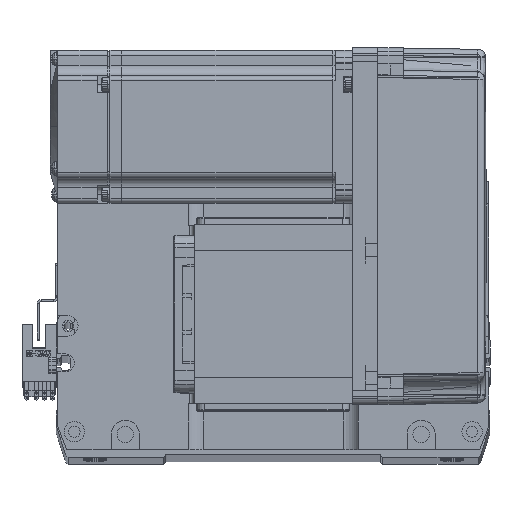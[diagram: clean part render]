
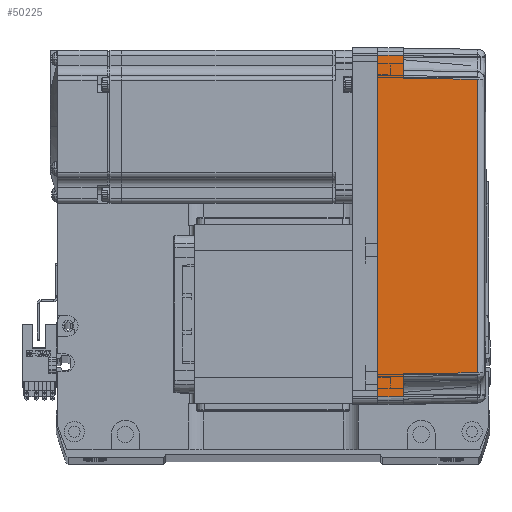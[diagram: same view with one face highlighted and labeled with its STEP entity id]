
A CAD part, top view. The second image highlights one B-rep face of the part: STEP entity #50225.
In plain terms, the highlighted planar face has unit normal (0.018, 0, 1) as drawn and (0, -1, 0.017) by its records, which use the part's own axes.
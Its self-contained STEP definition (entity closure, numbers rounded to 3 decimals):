
#400 = CARTESIAN_POINT ( 'NONE',  ( -66.959, -35.958, 2.39 ) ) ;
#632 = DIRECTION ( 'NONE',  ( 0.017, 0.017, 1. ) ) ;
#633 = VERTEX_POINT ( 'NONE', #6731 ) ;
#2541 = CARTESIAN_POINT ( 'NONE',  ( 19.165, -35.316, 39.181 ) ) ;
#2637 = FACE_OUTER_BOUND ( 'NONE', #43428, .T. ) ;
#4455 = LINE ( 'NONE', #37408, #62896 ) ;
#5249 = VERTEX_POINT ( 'NONE', #36865 ) ;
#5733 = VERTEX_POINT ( 'NONE', #47545 ) ;
#6731 = CARTESIAN_POINT ( 'NONE',  ( 57.495, -35.32, 38.985 ) ) ;
#10864 = DIRECTION ( 'NONE',  ( -0.017, 0.017, 1. ) ) ;
#11878 = ORIENTED_EDGE ( 'NONE', *, *, #49761, .T. ) ;
#13678 = PLANE ( 'NONE',  #18598 ) ;
#13761 = B_SPLINE_CURVE_WITH_KNOTS ( 'NONE', 3,
 ( #22636, #2541, #57939, #17297 ),
 .UNSPECIFIED., .F., .F.,
 ( 4, 4 ),
 ( 0., 1. ),
 .UNSPECIFIED. ) ;
#13944 = CARTESIAN_POINT ( 'NONE',  ( 58., -35.825, 10. ) ) ;
#16463 = LINE ( 'NONE', #41032, #64679 ) ;
#17263 = LINE ( 'NONE', #400, #62326 ) ;
#17297 = CARTESIAN_POINT ( 'NONE',  ( -57.495, -35.32, 38.985 ) ) ;
#18598 = AXIS2_PLACEMENT_3D ( 'NONE', #57350, #57478, #38635 ) ;
#20343 = LINE ( 'NONE', #48841, #35333 ) ;
#21361 = ORIENTED_EDGE ( 'NONE', *, *, #51730, .T. ) ;
#22021 = CARTESIAN_POINT ( 'NONE',  ( -66.826, -35.825, 10. ) ) ;
#22498 = EDGE_CURVE ( 'NONE', #633, #5249, #13761, .T. ) ;
#22636 = CARTESIAN_POINT ( 'NONE',  ( 57.495, -35.32, 38.985 ) ) ;
#27411 = VERTEX_POINT ( 'NONE', #45123 ) ;
#27445 = EDGE_CURVE ( 'NONE', #27411, #37041, #17263, .T. ) ;
#30849 = EDGE_CURVE ( 'NONE', #60410, #51542, #16463, .T. ) ;
#30953 = VECTOR ( 'NONE', #49736, 1000. ) ;
#31583 = CARTESIAN_POINT ( 'NONE',  ( 58., -35.825, 10. ) ) ;
#35333 = VECTOR ( 'NONE', #63269, 1000. ) ;
#36865 = CARTESIAN_POINT ( 'NONE',  ( -57.495, -35.32, 38.985 ) ) ;
#37041 = VERTEX_POINT ( 'NONE', #22021 ) ;
#37082 = EDGE_CURVE ( 'NONE', #5249, #5733, #4455, .T. ) ;
#37408 = CARTESIAN_POINT ( 'NONE',  ( -57.495, -35.32, 38.985 ) ) ;
#38635 = DIRECTION ( 'NONE',  ( 0., -0.017, -1. ) ) ;
#38880 = ORIENTED_EDGE ( 'NONE', *, *, #22498, .T. ) ;
#39873 = VERTEX_POINT ( 'NONE', #31583 ) ;
#41032 = CARTESIAN_POINT ( 'NONE',  ( 67., -36., 0. ) ) ;
#42711 = ORIENTED_EDGE ( 'NONE', *, *, #37082, .T. ) ;
#42912 = VECTOR ( 'NONE', #43919, 1000. ) ;
#43428 = EDGE_LOOP ( 'NONE', ( #51612, #21361, #11878, #38880, #42711, #49359, #55036, #60959 ) ) ;
#43855 = CARTESIAN_POINT ( 'NONE',  ( 70., -35.825, 10. ) ) ;
#43919 = DIRECTION ( 'NONE',  ( -0.017, 0.017, 1. ) ) ;
#44650 = CARTESIAN_POINT ( 'NONE',  ( 70., -35.825, 10. ) ) ;
#45123 = CARTESIAN_POINT ( 'NONE',  ( -67., -36., 0. ) ) ;
#45914 = LINE ( 'NONE', #44650, #30953 ) ;
#47203 = EDGE_CURVE ( 'NONE', #60410, #27411, #20343, .T. ) ;
#47545 = CARTESIAN_POINT ( 'NONE',  ( -58., -35.825, 10. ) ) ;
#48841 = CARTESIAN_POINT ( 'NONE',  ( 0., -36., 0. ) ) ;
#49359 = ORIENTED_EDGE ( 'NONE', *, *, #57078, .T. ) ;
#49736 = DIRECTION ( 'NONE',  ( -1., 0., 0. ) ) ;
#49761 = EDGE_CURVE ( 'NONE', #39873, #633, #65087, .T. ) ;
#50225 = ADVANCED_FACE ( 'NONE', ( #2637 ), #13678, .T. ) ;
#51406 = CARTESIAN_POINT ( 'NONE',  ( 66.826, -35.825, 10. ) ) ;
#51542 = VERTEX_POINT ( 'NONE', #51406 ) ;
#51612 = ORIENTED_EDGE ( 'NONE', *, *, #30849, .T. ) ;
#51730 = EDGE_CURVE ( 'NONE', #51542, #39873, #45914, .T. ) ;
#54064 = DIRECTION ( 'NONE',  ( -1., 0., 0. ) ) ;
#55036 = ORIENTED_EDGE ( 'NONE', *, *, #27445, .F. ) ;
#57078 = EDGE_CURVE ( 'NONE', #5733, #37041, #57175, .T. ) ;
#57175 = LINE ( 'NONE', #43855, #57994 ) ;
#57350 = CARTESIAN_POINT ( 'NONE',  ( 70., -36., 0. ) ) ;
#57478 = DIRECTION ( 'NONE',  ( 0., -1., 0.017 ) ) ;
#57757 = DIRECTION ( 'NONE',  ( -0.017, -0.017, -1. ) ) ;
#57939 = CARTESIAN_POINT ( 'NONE',  ( -19.165, -35.316, 39.181 ) ) ;
#57994 = VECTOR ( 'NONE', #54064, 1000. ) ;
#59454 = CARTESIAN_POINT ( 'NONE',  ( 67., -36., 0. ) ) ;
#60410 = VERTEX_POINT ( 'NONE', #59454 ) ;
#60959 = ORIENTED_EDGE ( 'NONE', *, *, #47203, .F. ) ;
#62326 = VECTOR ( 'NONE', #632, 1000. ) ;
#62896 = VECTOR ( 'NONE', #57757, 1000. ) ;
#63269 = DIRECTION ( 'NONE',  ( -1., 0., 0. ) ) ;
#64679 = VECTOR ( 'NONE', #10864, 1000. ) ;
#65087 = LINE ( 'NONE', #13944, #42912 ) ;
